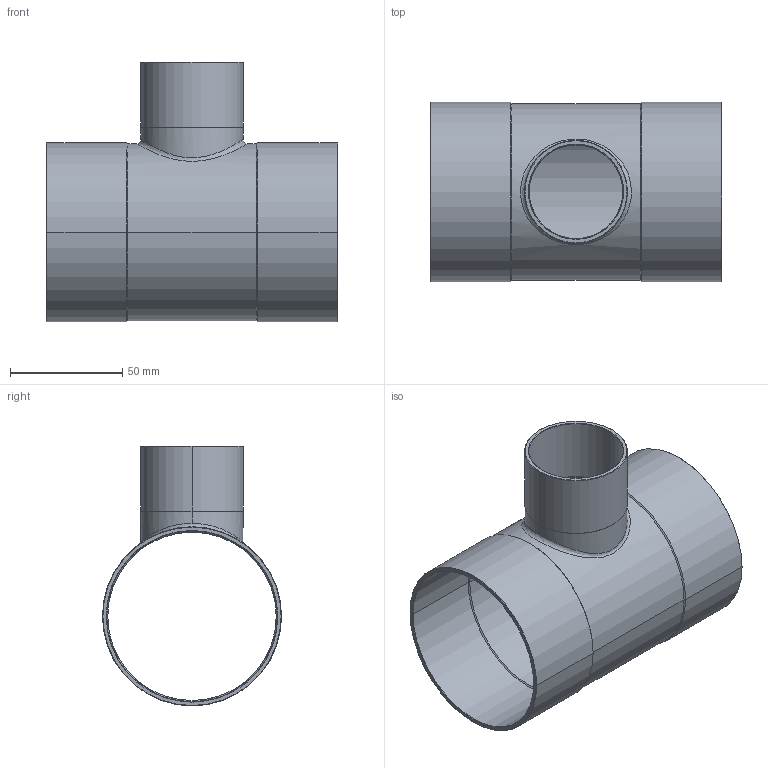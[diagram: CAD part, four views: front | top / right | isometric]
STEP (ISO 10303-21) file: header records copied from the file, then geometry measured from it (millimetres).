
FILE_DESCRIPTION((''),'2;1');
FILE_NAME('G:\Technics\CAD\Bauteile\15130\15130764276.stp','2005-11-02T10:20:00',('boden'),(''),'Autodesk Inventor 8','Autodesk Inventor 8','');
FILE_SCHEMA(('AUTOMOTIVE_DESIGN { 1 0 10303 214 1 1 1 1 }'));
Length unit declared in the file: millimetre
Products named in the file (1): 15130764276
Bounding box: 130 x 80 x 116 mm (x, y, z)
Volume: 67949.2 mm3; surface area: 72621.5 mm2
Topology: 1 solids, 1 shells, 49 faces, 102 edges, 56 vertices
Faces by surface type: cone 24, cylinder 20, plane 3, bspline 2
Entity records: 1715 total; most frequent: CARTESIAN_POINT 636, DIRECTION 240, ORIENTED_EDGE 204, EDGE_CURVE 102, AXIS2_PLACEMENT_3D 98, VERTEX_POINT 56, EDGE_LOOP 54, CIRCLE 50
